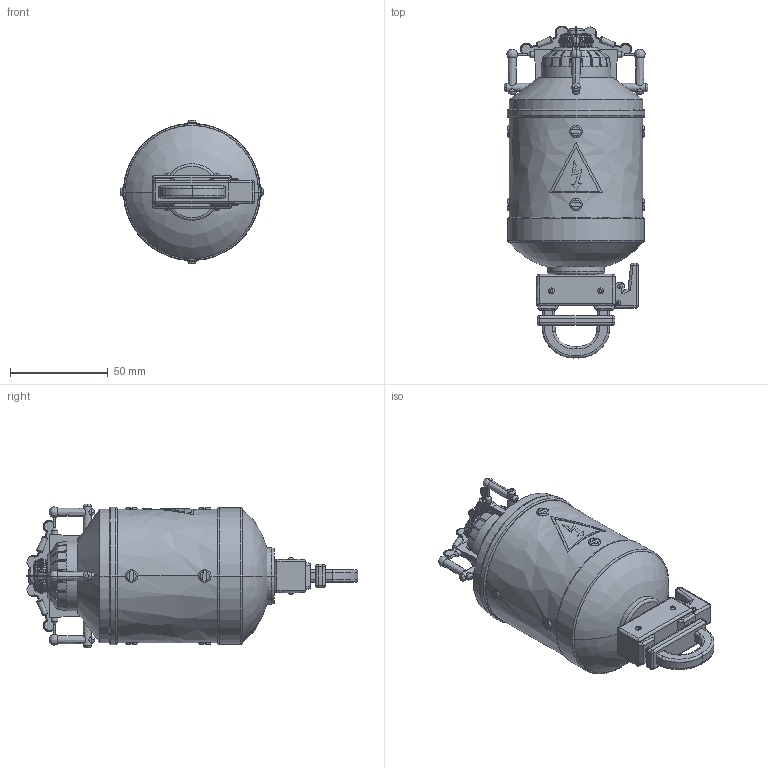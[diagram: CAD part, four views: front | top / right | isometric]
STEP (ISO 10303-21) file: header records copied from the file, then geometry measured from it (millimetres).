
FILE_DESCRIPTION(/* description */ ('STEP AP242 Edition 2','CAx-IF Rec.Pracs.---Representation and Presentation of Product Manufacturing Information (PMI)---4.0---2014-10-13','CAx-IF Rec.Pracs.---3D Tessellated Geometry---0.4---2014-09-14','2;1','CAx-IF Rec.Pracs.---User Defined Attributes---1.5---2016-08-15'),/* implementation_level */ '2;1');
FILE_NAME(/* name */ '6988e076e23b5d82ed0ad3d3',/* time_stamp */ '2026-02-08T19:14:03Z',/* author */ (''),/* organization */ (''),/* preprocessor_version */ 'ST-DEVELOPER v20',/* originating_system */ 'ONSHAPE BY PTC INC, 1.210',/* authorisation */ ' ');
FILE_SCHEMA (('AP242_MANAGED_MODEL_BASED_3D_ENGINEERING_MIM_LF { 1 0 10303 442 3 1 4 }'));
Products named in the file (5): Surface 1; Part 2; Part 4; Part 1; Part 3
Bounding box: 73.68 x 170.21 x 73.68 mm (x, y, z)
Volume: 229993.7 mm3; surface area: 64474.8 mm2
Topology: 4 solids, 5 shells, 1330 faces, 3833 edges, 2459 vertices
Faces by surface type: bspline 1330
Entity records: 58650 total; most frequent: CARTESIAN_POINT 20616, ORIENTED_EDGE 7522, DIRECTION 4793, EDGE_CURVE 3763, VERTEX_POINT 2459, LINE 1601, VECTOR 1601, AXIS2_PLACEMENT_3D 1596
